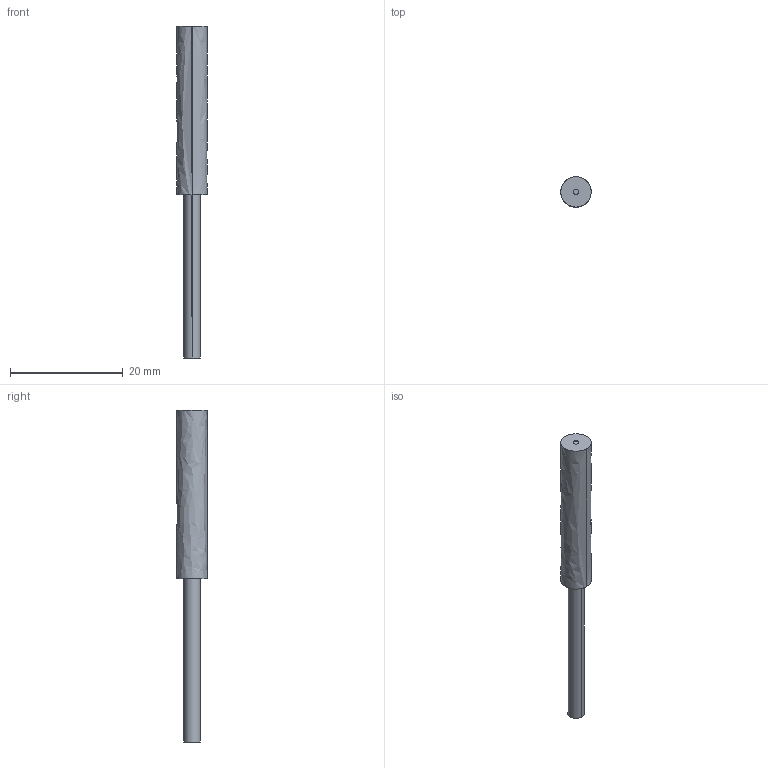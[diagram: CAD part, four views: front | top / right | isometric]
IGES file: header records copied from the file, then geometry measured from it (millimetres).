
Start section: SolidWorks IGES FILE using analytic representation for surfaces
Global section: file name: \\intra-srv04\開発データ\CAD_Data\CAD委員会\3D電子ｶﾀﾛｸﾞ\製品カタログ（新）\0_IGES\GX-5SU.IGS,41HSolidWorks 2004; native system: by SolidWorks Corporation; preprocessor: Version 5.3; author: yk0651; date: 050907.100617; units: millimetre
Bounding box: 5.4 x 5.4 x 59 mm (x, y, z)
Surface area: 821.3 mm2 (no closed solid volume)
Topology: 0 solids, 0 shells, 16 faces, 263 edges, 263 vertices
Faces by surface type: revolution 9, bspline 7
